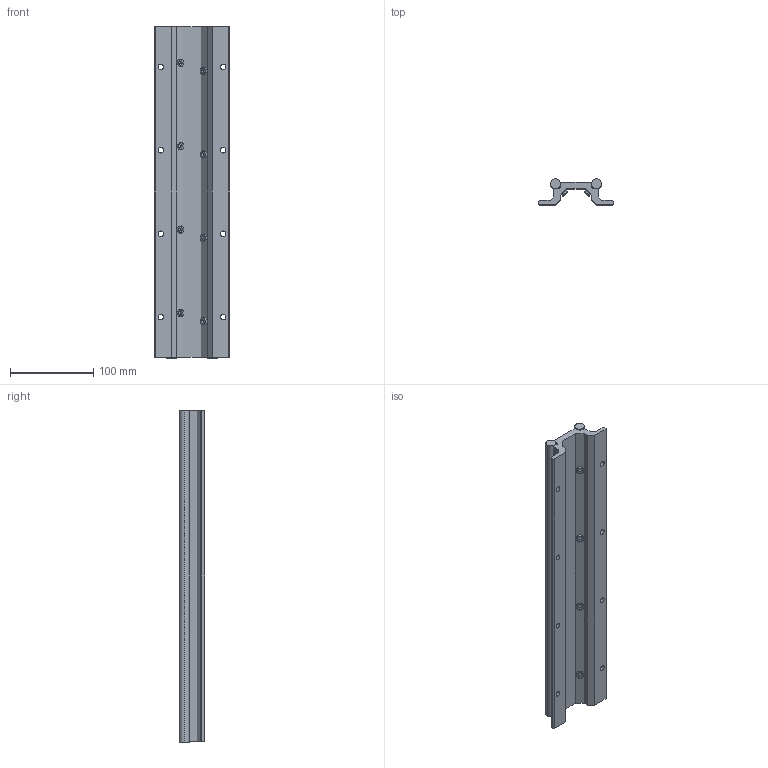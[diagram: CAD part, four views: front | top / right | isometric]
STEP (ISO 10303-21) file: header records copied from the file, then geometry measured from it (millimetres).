
FILE_DESCRIPTION (( 'STEP AP203' ), '1' );
FILE_NAME ('LF 3_-_LF 2 398 mm lang.step', '2005-06-03T06:31:05', ( ' ' ), ( ' ' ), 'SwSTEP 2.0', 'SolidWorks 2004231', '' );
FILE_SCHEMA (( 'CONFIG_CONTROL_DESIGN' ));
Length unit declared in the file: millimetre
Products named in the file (1): LF 3_-_LF 2  398 mm lang
Bounding box: 90 x 31 x 398 mm (x, y, z)
Volume: 415444.3 mm3; surface area: 129681.3 mm2
Topology: 1 solids, 1 shells, 226 faces, 588 edges, 360 vertices
Faces by surface type: plane 106, cylinder 88, torus 16, cone 16
Entity records: 7017 total; most frequent: CARTESIAN_POINT 1679, ORIENTED_EDGE 1144, DIRECTION 1018, EDGE_CURVE 572, VERTEX_POINT 360, VECTOR 340, LINE 340, AXIS2_PLACEMENT_3D 339
